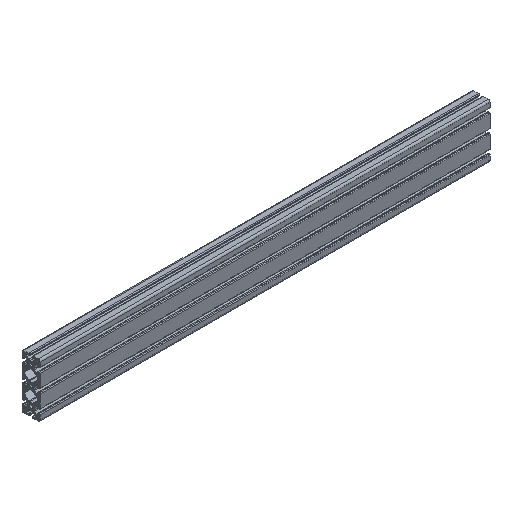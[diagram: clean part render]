
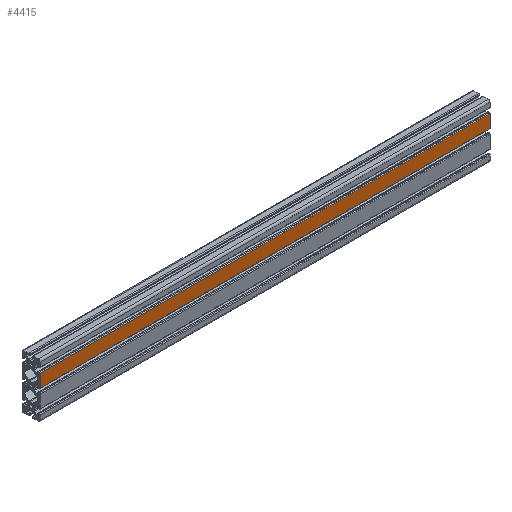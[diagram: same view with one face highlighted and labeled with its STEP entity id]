
A CAD part, isometric view. The second image highlights one B-rep face of the part: STEP entity #4415.
In plain terms, the highlighted planar face has unit normal (0, -1, 0).
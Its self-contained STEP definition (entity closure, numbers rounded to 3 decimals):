
#112 = CARTESIAN_POINT ( 'NONE',  ( 1000., -20., 34.5 ) ) ;
#320 = DIRECTION ( 'NONE',  ( -1., 0., 0. ) ) ;
#512 = VECTOR ( 'NONE', #320, 1000. ) ;
#603 = CARTESIAN_POINT ( 'NONE',  ( 1000., -20., 34.5 ) ) ;
#892 = EDGE_CURVE ( 'NONE', #1390, #4958, #1178, .T. ) ;
#1043 = EDGE_CURVE ( 'NONE', #1390, #1746, #5262, .T. ) ;
#1178 = LINE ( 'NONE', #112, #4734 ) ;
#1240 = CARTESIAN_POINT ( 'NONE',  ( 1000., -20., 5.5 ) ) ;
#1390 = VERTEX_POINT ( 'NONE', #4221 ) ;
#1478 = ORIENTED_EDGE ( 'NONE', *, *, #1635, .T. ) ;
#1635 = EDGE_CURVE ( 'NONE', #4958, #5181, #3268, .T. ) ;
#1672 = ORIENTED_EDGE ( 'NONE', *, *, #892, .T. ) ;
#1730 = LINE ( 'NONE', #1240, #512 ) ;
#1746 = VERTEX_POINT ( 'NONE', #3696 ) ;
#1879 = DIRECTION ( 'NONE',  ( 0., 0., 1. ) ) ;
#2329 = CARTESIAN_POINT ( 'NONE',  ( 1000., -20., 34.5 ) ) ;
#2368 = EDGE_CURVE ( 'NONE', #1746, #5181, #1730, .T. ) ;
#2399 = CARTESIAN_POINT ( 'NONE',  ( 0., -20., 34.5 ) ) ;
#2456 = FACE_OUTER_BOUND ( 'NONE', #4243, .T. ) ;
#2755 = VECTOR ( 'NONE', #3813, 1000. ) ;
#3268 = LINE ( 'NONE', #5730, #5468 ) ;
#3696 = CARTESIAN_POINT ( 'NONE',  ( 1000., -20., 5.5 ) ) ;
#3813 = DIRECTION ( 'NONE',  ( 0., 0., -1. ) ) ;
#3842 = DIRECTION ( 'NONE',  ( 0., 0., -1. ) ) ;
#4066 = AXIS2_PLACEMENT_3D ( 'NONE', #2329, #4664, #1879 ) ;
#4203 = PLANE ( 'NONE',  #4066 ) ;
#4221 = CARTESIAN_POINT ( 'NONE',  ( 1000., -20., 34.5 ) ) ;
#4243 = EDGE_LOOP ( 'NONE', ( #1478, #4389, #4503, #1672 ) ) ;
#4389 = ORIENTED_EDGE ( 'NONE', *, *, #2368, .F. ) ;
#4415 = ADVANCED_FACE ( 'NONE', ( #2456 ), #4203, .F. ) ;
#4503 = ORIENTED_EDGE ( 'NONE', *, *, #1043, .F. ) ;
#4593 = DIRECTION ( 'NONE',  ( -1., 0., 0. ) ) ;
#4664 = DIRECTION ( 'NONE',  ( 0., 1., 0. ) ) ;
#4734 = VECTOR ( 'NONE', #4593, 1000. ) ;
#4958 = VERTEX_POINT ( 'NONE', #2399 ) ;
#5181 = VERTEX_POINT ( 'NONE', #5512 ) ;
#5262 = LINE ( 'NONE', #603, #2755 ) ;
#5468 = VECTOR ( 'NONE', #3842, 1000. ) ;
#5512 = CARTESIAN_POINT ( 'NONE',  ( 0., -20., 5.5 ) ) ;
#5730 = CARTESIAN_POINT ( 'NONE',  ( 0., -20., 34.5 ) ) ;
